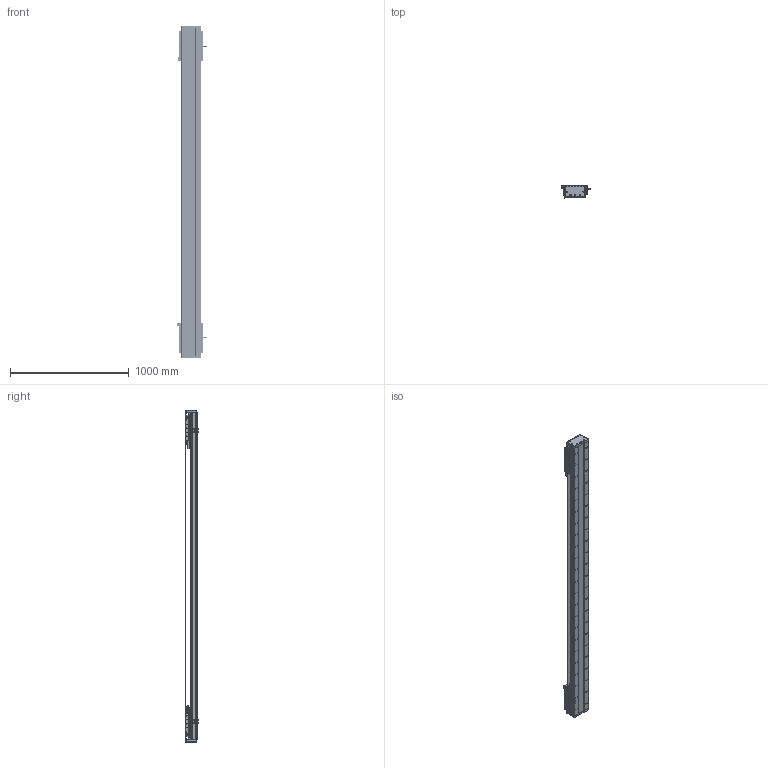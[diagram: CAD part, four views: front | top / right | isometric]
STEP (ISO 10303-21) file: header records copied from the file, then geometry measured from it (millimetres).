
FILE_DESCRIPTION (( 'STEP AP203' ), '1' );
FILE_NAME ('DA-C165-2-C3-T2180-C010-0.2 直线电机.STEP', '2023-06-13T09:18:52', ( '微软用户' ), ( '微软中国' ), 'SwSTEP 2.0', 'SolidWorks 2019', '' );
FILE_SCHEMA (( 'CONFIG_CONTROL_DESIGN' ));
Length unit declared in the file: millimetre
Products named in the file (22): 葩璃 PM-Y45^DA-C165-C3-T-C010-0.2-N 眻盄萇儂; 复件 CU165钢带组件^DA-C165-C3-T-C010-0.2-N 直线电机; 复件 DKW-HXJ-JY-00 缓冲橡胶^DA-C165-C3-T-C010-0.2-N 直线电机; 复件 DA165-GDLK-00 钢带拉块^复件 CU165钢带组件_DA-C165-C3-T-C010-0.2-N 直线电机; 复件 DA165-GD-DG-H-00 端盖^复件 CU165钢带组件_DA-C165-C3-T-C010-0.2-N 直线电机; 葩璃 CKM01-W075-TRL^DA-C165-C3-T-C010-0.2-N 眻盄萇儂; 珨极趙賑雄怢啣C3-wf; 复件 66338-1000-006-00 光电感应块^DA-C165-C3-T-C010-0.2-N 直线电机; 复件 XD-U-02L 磁栅尺^DA-C165-C3-T-C010-0.2-N 直线电机_T; IU-CU165-L 菁釱絳寢; 复件 DA165-GDYK-00 钢带压块^复件 CU165钢带组件_DA-C165-C3-T-C010-0.2-N 直线电机; 复件 六角薄螺母 M3^DA-C165-C3-T-C010-0.2-N 直线电机_GB_FASTENER_NUT_STNAB M3-C; DA-C165-2-C3-T2180-C010-0.2 眻盄萇儂; 复件 DA126-GYP-ZJ-00 中间光电感应片^DA-C165-C3-T-C010-0.2-N 直线电机; 复件 DA95-HXJ-00 缓冲橡胶^DA-C165-C3-T-C010-0.2-N 直线电机; 复件 DA165-GD-1860-002-00 钢带盖板^复件 CU165钢带组件_DA-C165-C3-T-C010-0.2-N 直线电机; 复件 DA165-GYP-00 光电感应片^DA-C165-C3-T-C010-0.2-N 直线电机; 葩璃 CKM03-W075-C1C2-TP-3.0^DA-C165-C3-T-C010-0.2-N 眻盄萇儂; 复件 CU165 底座^IU-CU165-L 底座导轨_L2760; 葩璃 DA95-GT-T-00^IU-CU165-L 菁釱絳寢_T; 复件 DMA-010-0.2 读数头^DA-C165-C3-T-C010-0.2-N 直线电机; 葩璃 PM-T45^DA-C165-C3-T-C010-0.2-N 眻盄萇儂
Assembly tree (45 placements, depth 3):
  DA-C165-2-C3-T2180-C010-0.2 眻盄萇儂
    IU-CU165-L 菁釱絳寢
      复件 CU165 底座^IU-CU165-L 底座导轨_L2760
      葩璃 DA95-GT-T-00^IU-CU165-L 菁釱絳寢_T  x4
    复件 XD-U-02L 磁栅尺^DA-C165-C3-T-C010-0.2-N 直线电机_T
    葩璃 PM-T45^DA-C165-C3-T-C010-0.2-N 眻盄萇儂  x4
    葩璃 CKM01-W075-TRL^DA-C165-C3-T-C010-0.2-N 眻盄萇儂
    复件 CU165钢带组件^DA-C165-C3-T-C010-0.2-N 直线电机
      复件 DA165-GD-DG-H-00 端盖^复件 CU165钢带组件_DA-C165-C3-T-C010-0.2-N 直线电机  x2
      复件 DA165-GDYK-00 钢带压块^复件 CU165钢带组件_DA-C165-C3-T-C010-0.2-N 直线电机  x2
      复件 DA165-GD-1860-002-00 钢带盖板^复件 CU165钢带组件_DA-C165-C3-T-C010-0.2-N 直线电机
      复件 DA165-GDLK-00 钢带拉块^复件 CU165钢带组件_DA-C165-C3-T-C010-0.2-N 直线电机  x2
    复件 DA95-HXJ-00 缓冲橡胶^DA-C165-C3-T-C010-0.2-N 直线电机  x4
    复件 DMA-010-0.2 读数头^DA-C165-C3-T-C010-0.2-N 直线电机  x2
    复件 DA165-GYP-00 光电感应片^DA-C165-C3-T-C010-0.2-N 直线电机  x2
    复件 66338-1000-006-00 光电感应块^DA-C165-C3-T-C010-0.2-N 直线电机
    葩璃 PM-Y45^DA-C165-C3-T-C010-0.2-N 眻盄萇儂
    复件 DA126-GYP-ZJ-00 中间光电感应片^DA-C165-C3-T-C010-0.2-N 直线电机
    葩璃 CKM03-W075-C1C2-TP-3.0^DA-C165-C3-T-C010-0.2-N 眻盄萇儂  x2
    复件 DKW-HXJ-JY-00 缓冲橡胶^DA-C165-C3-T-C010-0.2-N 直线电机  x2
    复件 六角薄螺母 M3^DA-C165-C3-T-C010-0.2-N 直线电机_GB_FASTENER_NUT_STNAB M3-C  x8
    珨极趙賑雄怢啣C3-wf  x2
Bounding box: 247.2 x 111.45 x 2800 mm (x, y, z)
Volume: 18104478.1 mm3; surface area: 5134642.3 mm2
Topology: 121 solids, 221 shells, 6641 faces, 18200 edges, 11340 vertices
Faces by surface type: cylinder 3550, plane 2023, cone 980, torus 80, sphere 8
Entity records: 152296 total; most frequent: CARTESIAN_POINT 40861, ORIENTED_EDGE 22984, DIRECTION 22460, EDGE_CURVE 11492, AXIS2_PLACEMENT_3D 8585, VERTEX_POINT 7494, EDGE_LOOP 5344, VECTOR 5290
